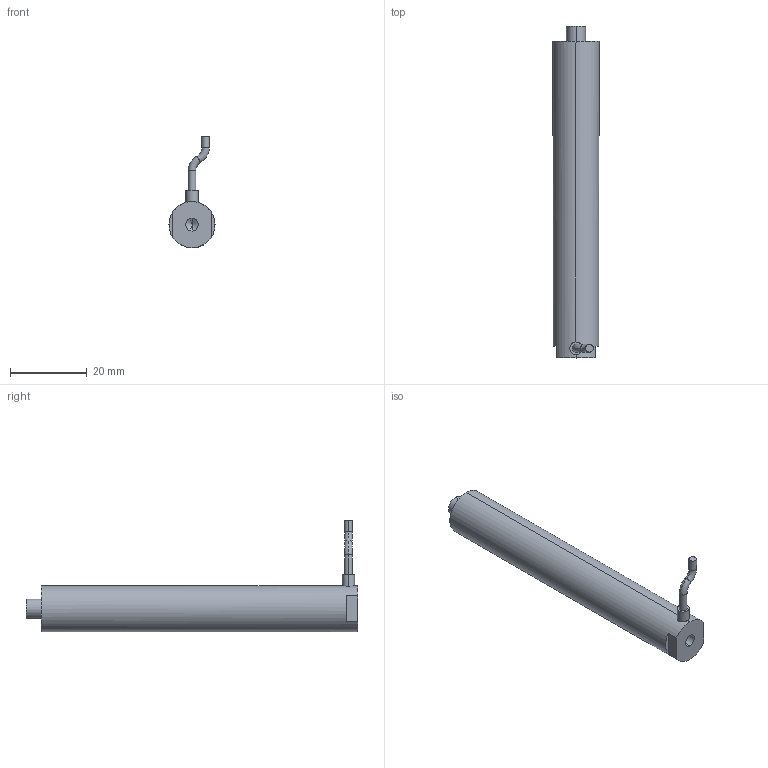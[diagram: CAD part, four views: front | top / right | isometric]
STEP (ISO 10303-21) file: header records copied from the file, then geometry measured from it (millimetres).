
FILE_DESCRIPTION (( 'STEP AP203' ), '1' );
FILE_NAME ('ƽͷʽ80VS12.STEP', '2020-08-19T06:08:29', ( 'User' ), ( 'china' ), 'SwSTEP 2.0', 'SolidWorks 2016', '' );
FILE_SCHEMA (( 'CONFIG_CONTROL_DESIGN' ));
Products named in the file (1): ƽͷʽ80VS12
Bounding box: 12 x 86.5 x 29.08 mm (x, y, z)
Volume: 9400 mm3; surface area: 3593.1 mm2
Topology: 1 solids, 1 shells, 964 faces, 2651 edges, 1763 vertices
Faces by surface type: bspline 531, plane 302, cylinder 125, torus 4, cone 2
Entity records: 45807 total; most frequent: CARTESIAN_POINT 26081, ORIENTED_EDGE 5298, EDGE_CURVE 2649, DIRECTION 1997, B_SPLINE_CURVE_WITH_KNOTS 1802, VERTEX_POINT 1763, EDGE_LOOP 1040, FACE_OUTER_BOUND 964
